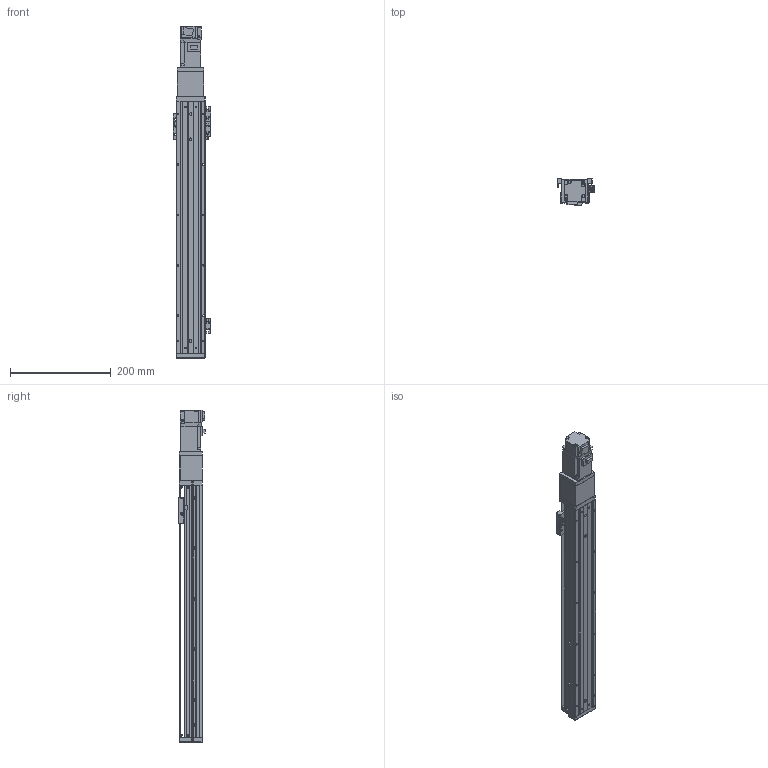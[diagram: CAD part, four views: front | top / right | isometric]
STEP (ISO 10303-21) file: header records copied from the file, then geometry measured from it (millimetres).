
FILE_DESCRIPTION (( 'STEP AP203' ), '1' );
FILE_NAME ('KTHA50-400-BC-M10-C4L.step', '2022-03-19T07:03:14', ( '微软用户' ), ( '微软中国' ), 'SwSTEP 2.0', 'SolidWorks 2020', '' );
FILE_SCHEMA (( 'CONFIG_CONTROL_DESIGN' ));
Length unit declared in the file: millimetre
Products named in the file (18): GBT 70.3-M3℅6; GBT77-2000 M3×3; CTHA50-027; KTHA50-001_500; GBT 70.1-M3℅6; CTHA50-006-2_CTHA60-006-2; KTHA50-002; CTHA60-017; CTHA50-013; KTHA50-004; GBT 70.1-M4×12; HG-KR13（三菱）; KTHA50-005; CTHA60-016; KTHA50-400-BC-M10-C4L; GB¨uT 70.2-M3¡Á6_M3¡Á6; CTHA60-021; EE_SX911P_R
Assembly tree (52 placements, depth 2):
  KTHA50-400-BC-M10-C4L
    KTHA50-001_500
    KTHA50-002
    KTHA50-004
    KTHA50-005
    GB¨uT 70.2-M3¡Á6_M3¡Á6  x6
    EE_SX911P_R  x3
    GBT77-2000 M3×3  x6
    GBT 70.1-M3℅6  x6
    CTHA60-017  x3
    GBT 70.1-M4×12  x10
    CTHA60-016  x2
    CTHA60-021  x2
    GBT 70.3-M3℅6  x6
    CTHA50-027
    CTHA50-006-2_CTHA60-006-2
    CTHA50-013
    HG-KR13（三菱）
Bounding box: 75.22 x 53.3 x 658.6 mm (x, y, z)
Volume: 1110139.2 mm3; surface area: 288067.2 mm2
Topology: 55 solids, 55 shells, 2166 faces, 5122 edges, 3136 vertices
Faces by surface type: plane 1232, cylinder 512, cone 318, torus 88, sphere 16
Entity records: 34894 total; most frequent: CARTESIAN_POINT 5690, DIRECTION 5620, ORIENTED_EDGE 5316, EDGE_CURVE 2658, AXIS2_PLACEMENT_3D 1879, VECTOR 1862, LINE 1862, VERTEX_POINT 1669
